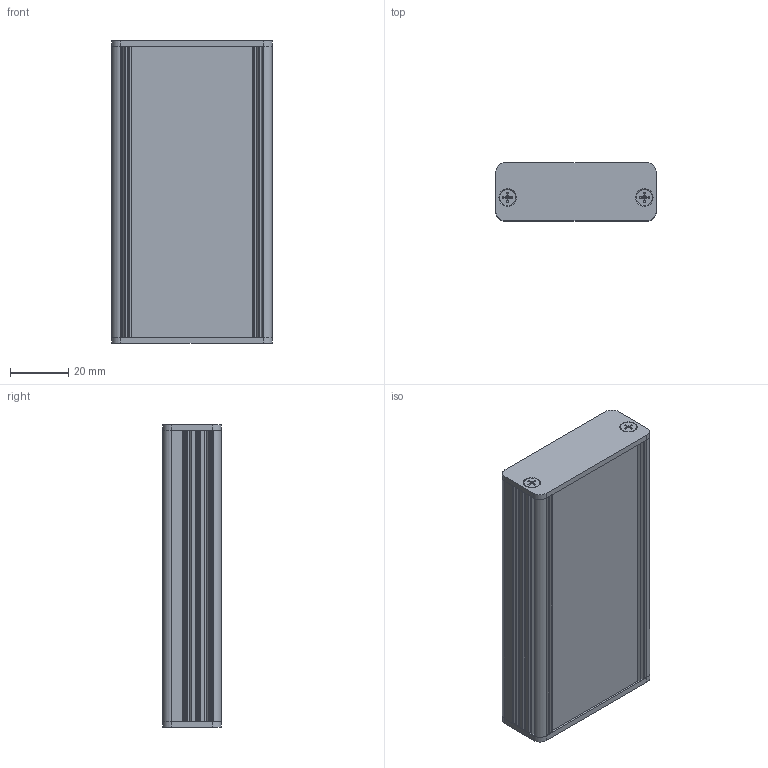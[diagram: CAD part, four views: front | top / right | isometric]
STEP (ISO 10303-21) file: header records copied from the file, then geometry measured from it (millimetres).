
FILE_DESCRIPTION((''),'2;1');
FILE_NAME('C:\Dokumente und Einstellungen\Lochen\Desktop\AKG\AKG_55_20_100.stp','2015-01-15T13:39:55',('Lochen'),(''),'Autodesk Inventor 2012','Autodesk Inventor 2012','');
FILE_SCHEMA(('AUTOMOTIVE_DESIGN { 1 0 10303 214 1 1 1 1 }'));
Length unit declared in the file: millimetre
Products named in the file (5): 001037229; 001033860; 001033857; L0015SGD000014A; DIN EN ISO 7046-1 H M3 x 10 - 4.8 - H
Assembly tree (8 placements, depth 2):
  001037229
    001033860
    001033857
    L0015SGD000014A  x2
    DIN EN ISO 7046-1 H M3 x 10 - 4.8 - H  x4
Bounding box: 55 x 20 x 104 mm (x, y, z)
Volume: 30184.8 mm3; surface area: 39726.8 mm2
Topology: 8 solids, 8 shells, 343 faces, 953 edges, 626 vertices
Faces by surface type: plane 146, cylinder 125, cone 52, torus 20
Full cylindrical faces by diameter (mm): 2.693 x4, 3 x4, 3.4 x4, 5.5 x4
Entity records: 8069 total; most frequent: CARTESIAN_POINT 1499, DIRECTION 1395, ORIENTED_EDGE 1342, EDGE_CURVE 671, AXIS2_PLACEMENT_3D 492, VERTEX_POINT 452, VECTOR 411, LINE 411
